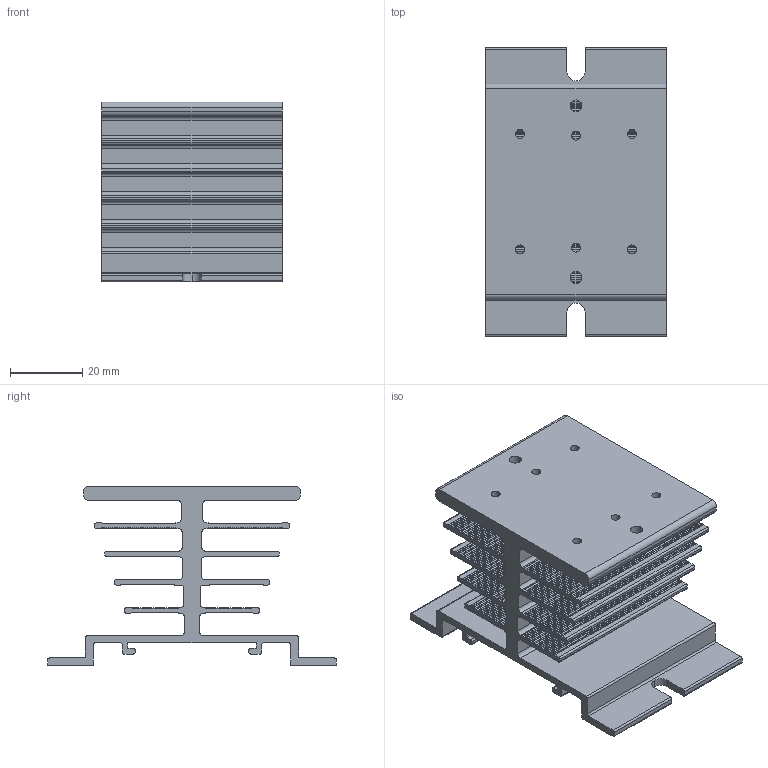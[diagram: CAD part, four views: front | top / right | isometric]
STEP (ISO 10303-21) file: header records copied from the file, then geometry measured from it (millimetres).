
FILE_DESCRIPTION (( 'STEP AP214' ), '1' );
FILE_NAME ('HS_012.STEP', '2024-04-12T08:06:45', ( '' ), ( '' ), 'SwSTEP 2.0', 'SolidWorks 2022', '' );
FILE_SCHEMA (( 'AUTOMOTIVE_DESIGN' ));
Length unit declared in the file: millimetre
Products named in the file (1): HS_012
Bounding box: 50 x 80 x 49.8 mm (x, y, z)
Volume: 42568.5 mm3; surface area: 39010.9 mm2
Topology: 1 solids, 1 shells, 1079 faces, 3231 edges, 2154 vertices
Faces by surface type: cylinder 991, plane 88
Entity records: 37613 total; most frequent: DIRECTION 7373, CARTESIAN_POINT 6465, ORIENTED_EDGE 6462, EDGE_CURVE 3231, AXIS2_PLACEMENT_3D 3062, VERTEX_POINT 2154, CIRCLE 1982, VECTOR 1249
